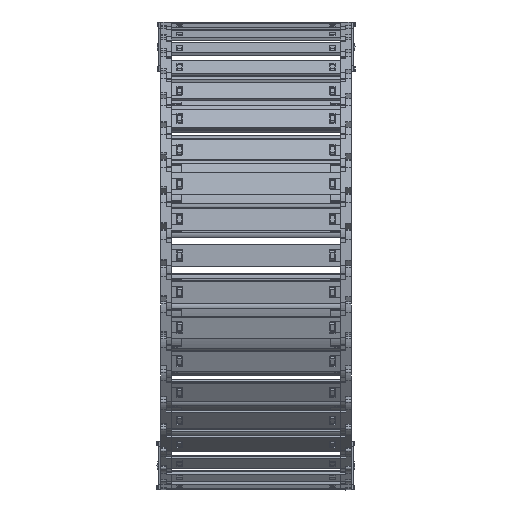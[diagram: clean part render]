
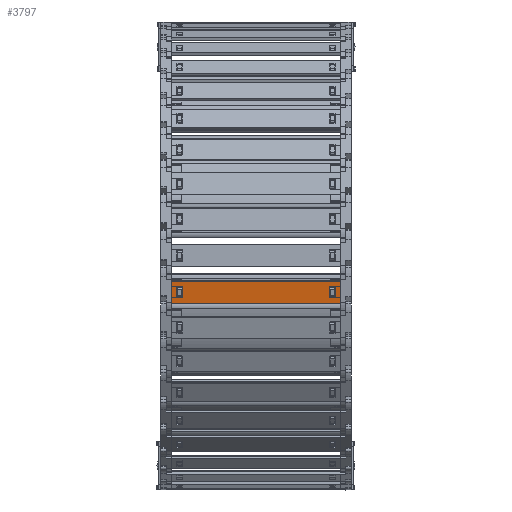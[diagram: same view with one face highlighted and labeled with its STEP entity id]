
A CAD part, top view. The second image highlights one B-rep face of the part: STEP entity #3797.
In plain terms, the highlighted planar face has unit normal (0, -0.156, 0.988) as drawn and (0, 1, 0) by its records, which use the part's own axes.
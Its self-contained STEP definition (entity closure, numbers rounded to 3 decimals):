
#2923=DIRECTION('',(0.,0.,1.));
#2924=VECTOR('',#2923,15.8);
#2925=CARTESIAN_POINT('',(105.74,1.5,-7.9));
#2926=LINE('',#2925,#2924);
#2930=DIRECTION('',(-1.,0.,0.));
#2931=VECTOR('',#2930,120.5);
#2932=CARTESIAN_POINT('',(105.74,1.5,7.9));
#2933=LINE('',#2932,#2931);
#2937=DIRECTION('',(0.,0.,-1.));
#2938=VECTOR('',#2937,15.8);
#2939=CARTESIAN_POINT('',(-14.76,1.5,7.9));
#2940=LINE('',#2939,#2938);
#2944=DIRECTION('',(1.,0.,0.));
#2945=VECTOR('',#2944,3.648);
#2946=CARTESIAN_POINT('',(98.122,1.5,4.075));
#2947=LINE('',#2946,#2945);
#2951=DIRECTION('',(0.,0.,-1.));
#2952=VECTOR('',#2951,8.15);
#2953=CARTESIAN_POINT('',(101.77,1.5,4.075));
#2954=LINE('',#2953,#2952);
#2958=DIRECTION('',(-1.,0.,0.));
#2959=VECTOR('',#2958,3.648);
#2960=CARTESIAN_POINT('',(101.77,1.5,-4.075));
#2961=LINE('',#2960,#2959);
#2965=DIRECTION('',(0.,0.,-1.));
#2966=VECTOR('',#2965,8.15);
#2967=CARTESIAN_POINT('',(-7.142,1.5,4.075));
#2968=LINE('',#2967,#2966);
#2972=DIRECTION('',(-1.,0.,0.));
#2973=VECTOR('',#2972,3.648);
#2974=CARTESIAN_POINT('',(-7.142,1.5,-4.075));
#2975=LINE('',#2974,#2973);
#2979=DIRECTION('',(0.,0.,1.));
#2980=VECTOR('',#2979,8.15);
#2981=CARTESIAN_POINT('',(-10.79,1.5,-4.075));
#2982=LINE('',#2981,#2980);
#2986=DIRECTION('',(1.,0.,0.));
#2987=VECTOR('',#2986,3.648);
#2988=CARTESIAN_POINT('',(-10.79,1.5,4.075));
#2989=LINE('',#2988,#2987);
#3000=DIRECTION('',(-1.,0.,0.));
#3001=VECTOR('',#3000,120.5);
#3002=CARTESIAN_POINT('',(105.74,1.5,-7.9));
#3003=LINE('',#3002,#3001);
#3208=DIRECTION('',(0.,0.,-1.));
#3209=VECTOR('',#3208,8.15);
#3210=CARTESIAN_POINT('',(98.122,1.5,4.075));
#3211=LINE('',#3210,#3209);
#3507=CARTESIAN_POINT('',(101.77,1.5,4.075));
#3508=VERTEX_POINT('',#3507);
#3509=CARTESIAN_POINT('',(98.122,1.5,4.075));
#3510=VERTEX_POINT('',#3509);
#3551=CARTESIAN_POINT('',(98.122,1.5,-4.075));
#3552=VERTEX_POINT('',#3551);
#3553=CARTESIAN_POINT('',(101.77,1.5,-4.075));
#3554=VERTEX_POINT('',#3553);
#3555=CARTESIAN_POINT('',(105.74,1.5,7.9));
#3557=VERTEX_POINT('',#3555);
#3559=CARTESIAN_POINT('',(105.74,1.5,-7.9));
#3560=VERTEX_POINT('',#3559);
#3583=CARTESIAN_POINT('',(-7.142,1.5,4.075));
#3584=CARTESIAN_POINT('',(-7.142,1.5,-4.075));
#3585=VERTEX_POINT('',#3583);
#3586=VERTEX_POINT('',#3584);
#3587=CARTESIAN_POINT('',(-10.79,1.5,-4.075));
#3588=VERTEX_POINT('',#3587);
#3589=CARTESIAN_POINT('',(-10.79,1.5,4.075));
#3590=VERTEX_POINT('',#3589);
#3591=CARTESIAN_POINT('',(-14.76,1.5,7.9));
#3592=VERTEX_POINT('',#3591);
#3595=CARTESIAN_POINT('',(-14.76,1.5,-7.9));
#3596=VERTEX_POINT('',#3595);
#3766=CARTESIAN_POINT('',(137.48,1.5,10.061));
#3767=DIRECTION('',(0.,-1.,0.));
#3768=DIRECTION('',(0.,0.,-1.));
#3769=AXIS2_PLACEMENT_3D('',#3766,#3767,#3768);
#3770=PLANE('',#3769);
#3771=ORIENTED_EDGE('',*,*,#3669,.T.);
#3772=ORIENTED_EDGE('',*,*,#3707,.T.);
#3773=ORIENTED_EDGE('',*,*,#3732,.T.);
#3775=ORIENTED_EDGE('',*,*,#3774,.F.);
#3776=EDGE_LOOP('',(#3771,#3772,#3773,#3775));
#3777=FACE_OUTER_BOUND('',#3776,.F.);
#3779=ORIENTED_EDGE('',*,*,#3778,.F.);
#3780=ORIENTED_EDGE('',*,*,#3608,.T.);
#3782=ORIENTED_EDGE('',*,*,#3781,.T.);
#3784=ORIENTED_EDGE('',*,*,#3783,.T.);
#3785=EDGE_LOOP('',(#3779,#3780,#3782,#3784));
#3786=FACE_BOUND('',#3785,.F.);
#3788=ORIENTED_EDGE('',*,*,#3787,.T.);
#3790=ORIENTED_EDGE('',*,*,#3789,.T.);
#3792=ORIENTED_EDGE('',*,*,#3791,.T.);
#3794=ORIENTED_EDGE('',*,*,#3793,.T.);
#3795=EDGE_LOOP('',(#3788,#3790,#3792,#3794));
#3796=FACE_BOUND('',#3795,.F.);
#3797=ADVANCED_FACE('',(#3777,#3786,#3796),#3770,.F.);
#3608=EDGE_CURVE('',#3510,#3508,#2947,.T.);
#3669=EDGE_CURVE('',#3560,#3557,#2926,.T.);
#3707=EDGE_CURVE('',#3557,#3592,#2933,.T.);
#3732=EDGE_CURVE('',#3592,#3596,#2940,.T.);
#3774=EDGE_CURVE('',#3560,#3596,#3003,.T.);
#3778=EDGE_CURVE('',#3510,#3552,#3211,.T.);
#3781=EDGE_CURVE('',#3508,#3554,#2954,.T.);
#3783=EDGE_CURVE('',#3554,#3552,#2961,.T.);
#3787=EDGE_CURVE('',#3585,#3586,#2968,.T.);
#3789=EDGE_CURVE('',#3586,#3588,#2975,.T.);
#3791=EDGE_CURVE('',#3588,#3590,#2982,.T.);
#3793=EDGE_CURVE('',#3590,#3585,#2989,.T.);
